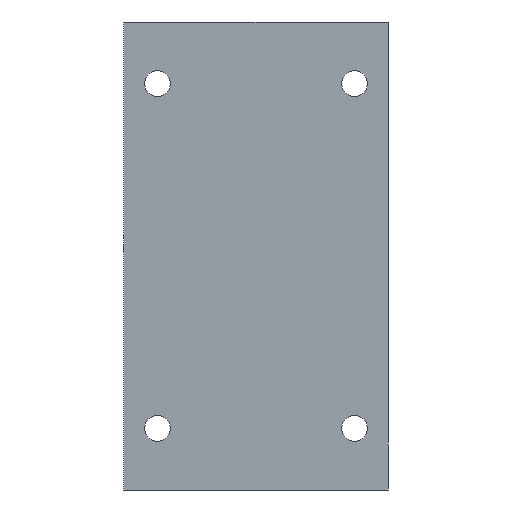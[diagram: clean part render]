
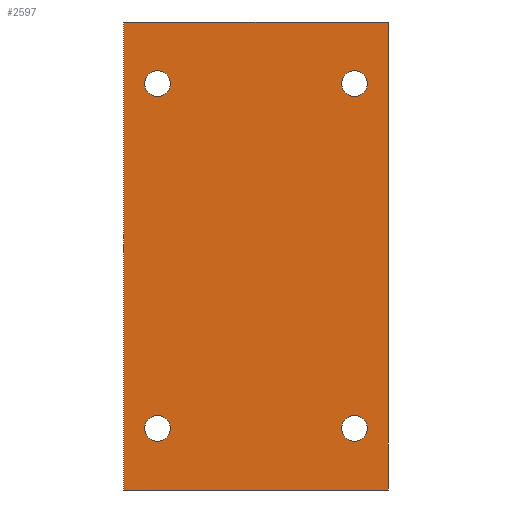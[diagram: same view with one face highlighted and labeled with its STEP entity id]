
A CAD part, front view. The second image highlights one B-rep face of the part: STEP entity #2597.
In plain terms, the highlighted planar face has unit normal (0, -1, 0).
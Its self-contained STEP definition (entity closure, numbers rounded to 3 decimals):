
#30 = DIRECTION ( 'NONE',  ( 1., 0., 0. ) ) ;
#44 = EDGE_CURVE ( 'NONE', #2842, #1373, #1187, .T. ) ;
#56 = DIRECTION ( 'NONE',  ( 0., -1., 0. ) ) ;
#59 = EDGE_CURVE ( 'NONE', #2975, #2590, #1435, .T. ) ;
#72 = VECTOR ( 'NONE', #3161, 1000. ) ;
#112 = CARTESIAN_POINT ( 'NONE',  ( 16., -17.5, 30.1 ) ) ;
#114 = FACE_BOUND ( 'NONE', #1475, .T. ) ;
#130 = DIRECTION ( 'NONE',  ( 0., 1., 0. ) ) ;
#145 = DIRECTION ( 'NONE',  ( 0., 0., -1. ) ) ;
#255 = DIRECTION ( 'NONE',  ( 0., -1., 0. ) ) ;
#277 = DIRECTION ( 'NONE',  ( 0., 0., -1. ) ) ;
#321 = VERTEX_POINT ( 'NONE', #359 ) ;
#322 = ORIENTED_EDGE ( 'NONE', *, *, #59, .F. ) ;
#324 = EDGE_CURVE ( 'NONE', #3497, #2842, #856, .T. ) ;
#327 = VERTEX_POINT ( 'NONE', #112 ) ;
#359 = CARTESIAN_POINT ( 'NONE',  ( 16., -17.5, -25.9 ) ) ;
#366 = CIRCLE ( 'NONE', #1368, 2.1 ) ;
#393 = VECTOR ( 'NONE', #586, 1000. ) ;
#440 = EDGE_CURVE ( 'NONE', #3500, #327, #366, .T. ) ;
#463 = EDGE_CURVE ( 'NONE', #3497, #2810, #3353, .T. ) ;
#503 = AXIS2_PLACEMENT_3D ( 'NONE', #3299, #56, #867 ) ;
#538 = AXIS2_PLACEMENT_3D ( 'NONE', #2406, #255, #3482 ) ;
#543 = DIRECTION ( 'NONE',  ( 0., -1., 0. ) ) ;
#586 = DIRECTION ( 'NONE',  ( 0., 0., -1. ) ) ;
#631 = ORIENTED_EDGE ( 'NONE', *, *, #3407, .F. ) ;
#642 = CARTESIAN_POINT ( 'NONE',  ( -21.5, -17.5, 38. ) ) ;
#645 = AXIS2_PLACEMENT_3D ( 'NONE', #1012, #801, #2932 ) ;
#653 = CARTESIAN_POINT ( 'NONE',  ( 16., -17.5, 28. ) ) ;
#696 = CARTESIAN_POINT ( 'NONE',  ( -16., -17.5, -28. ) ) ;
#707 = CARTESIAN_POINT ( 'NONE',  ( -21.5, -17.5, 38. ) ) ;
#748 = EDGE_LOOP ( 'NONE', ( #2264, #2576 ) ) ;
#760 = ORIENTED_EDGE ( 'NONE', *, *, #2693, .F. ) ;
#772 = EDGE_CURVE ( 'NONE', #1944, #321, #2546, .T. ) ;
#801 = DIRECTION ( 'NONE',  ( 0., -1., 0. ) ) ;
#809 = LINE ( 'NONE', #3293, #393 ) ;
#816 = EDGE_CURVE ( 'NONE', #1956, #1441, #1141, .T. ) ;
#856 = LINE ( 'NONE', #1706, #2586 ) ;
#867 = DIRECTION ( 'NONE',  ( 0., 0., -1. ) ) ;
#874 = EDGE_CURVE ( 'NONE', #1441, #1956, #2451, .T. ) ;
#1012 = CARTESIAN_POINT ( 'NONE',  ( -16., -17.5, 28. ) ) ;
#1130 = CARTESIAN_POINT ( 'NONE',  ( -21.5, -17.5, 38. ) ) ;
#1136 = CARTESIAN_POINT ( 'NONE',  ( -16., -17.5, -25.9 ) ) ;
#1141 = CIRCLE ( 'NONE', #2922, 2.1 ) ;
#1187 = LINE ( 'NONE', #2551, #2981 ) ;
#1201 = CARTESIAN_POINT ( 'NONE',  ( 16., -17.5, 28. ) ) ;
#1267 = ORIENTED_EDGE ( 'NONE', *, *, #324, .T. ) ;
#1277 = CARTESIAN_POINT ( 'NONE',  ( 21.5, -17.5, 38. ) ) ;
#1279 = CARTESIAN_POINT ( 'NONE',  ( 16., -17.5, -30.1 ) ) ;
#1367 = CARTESIAN_POINT ( 'NONE',  ( -16., -17.5, 30.1 ) ) ;
#1368 = AXIS2_PLACEMENT_3D ( 'NONE', #1201, #2004, #145 ) ;
#1373 = VERTEX_POINT ( 'NONE', #1420 ) ;
#1400 = ORIENTED_EDGE ( 'NONE', *, *, #1610, .F. ) ;
#1420 = CARTESIAN_POINT ( 'NONE',  ( 21.5, -17.5, -38. ) ) ;
#1422 = ORIENTED_EDGE ( 'NONE', *, *, #2499, .F. ) ;
#1435 = CIRCLE ( 'NONE', #3428, 2.1 ) ;
#1441 = VERTEX_POINT ( 'NONE', #1367 ) ;
#1472 = EDGE_LOOP ( 'NONE', ( #1581, #631 ) ) ;
#1475 = EDGE_LOOP ( 'NONE', ( #760, #322 ) ) ;
#1482 = DIRECTION ( 'NONE',  ( 0., -1., 0. ) ) ;
#1581 = ORIENTED_EDGE ( 'NONE', *, *, #772, .F. ) ;
#1610 = EDGE_CURVE ( 'NONE', #327, #3500, #3216, .T. ) ;
#1672 = AXIS2_PLACEMENT_3D ( 'NONE', #642, #130, #2809 ) ;
#1675 = EDGE_LOOP ( 'NONE', ( #3156, #1400 ) ) ;
#1706 = CARTESIAN_POINT ( 'NONE',  ( -21.5, -17.5, 38. ) ) ;
#1711 = PLANE ( 'NONE',  #1672 ) ;
#1764 = DIRECTION ( 'NONE',  ( 0., 0., -1. ) ) ;
#1944 = VERTEX_POINT ( 'NONE', #1279 ) ;
#1956 = VERTEX_POINT ( 'NONE', #2049 ) ;
#1991 = FACE_OUTER_BOUND ( 'NONE', #3416, .T. ) ;
#2004 = DIRECTION ( 'NONE',  ( 0., -1., 0. ) ) ;
#2028 = DIRECTION ( 'NONE',  ( 0., 0., -1. ) ) ;
#2049 = CARTESIAN_POINT ( 'NONE',  ( -16., -17.5, 25.9 ) ) ;
#2067 = ORIENTED_EDGE ( 'NONE', *, *, #463, .F. ) ;
#2098 = CARTESIAN_POINT ( 'NONE',  ( -21.5, -17.5, -38. ) ) ;
#2199 = DIRECTION ( 'NONE',  ( 0., -1., 0. ) ) ;
#2211 = DIRECTION ( 'NONE',  ( 0., 0., -1. ) ) ;
#2258 = CIRCLE ( 'NONE', #3443, 2.1 ) ;
#2262 = CARTESIAN_POINT ( 'NONE',  ( -16., -17.5, -30.1 ) ) ;
#2264 = ORIENTED_EDGE ( 'NONE', *, *, #816, .F. ) ;
#2345 = DIRECTION ( 'NONE',  ( 0., -1., 0. ) ) ;
#2396 = CARTESIAN_POINT ( 'NONE',  ( -16., -17.5, 28. ) ) ;
#2406 = CARTESIAN_POINT ( 'NONE',  ( 16., -17.5, -28. ) ) ;
#2451 = CIRCLE ( 'NONE', #645, 2.1 ) ;
#2499 = EDGE_CURVE ( 'NONE', #2810, #1373, #809, .T. ) ;
#2546 = CIRCLE ( 'NONE', #503, 2.1 ) ;
#2549 = FACE_BOUND ( 'NONE', #1675, .T. ) ;
#2551 = CARTESIAN_POINT ( 'NONE',  ( -21.5, -17.5, -38. ) ) ;
#2558 = CARTESIAN_POINT ( 'NONE',  ( 16., -17.5, 25.9 ) ) ;
#2567 = FACE_BOUND ( 'NONE', #748, .T. ) ;
#2576 = ORIENTED_EDGE ( 'NONE', *, *, #874, .F. ) ;
#2586 = VECTOR ( 'NONE', #2211, 1000. ) ;
#2590 = VERTEX_POINT ( 'NONE', #2262 ) ;
#2597 = ADVANCED_FACE ( 'NONE', ( #2549, #114, #2567, #3120, #1991 ), #1711, .F. ) ;
#2657 = AXIS2_PLACEMENT_3D ( 'NONE', #653, #2345, #1764 ) ;
#2693 = EDGE_CURVE ( 'NONE', #2590, #2975, #2258, .T. ) ;
#2755 = ORIENTED_EDGE ( 'NONE', *, *, #44, .T. ) ;
#2809 = DIRECTION ( 'NONE',  ( 0., 0., 1. ) ) ;
#2810 = VERTEX_POINT ( 'NONE', #1277 ) ;
#2842 = VERTEX_POINT ( 'NONE', #2098 ) ;
#2922 = AXIS2_PLACEMENT_3D ( 'NONE', #2396, #543, #277 ) ;
#2932 = DIRECTION ( 'NONE',  ( 0., 0., -1. ) ) ;
#2975 = VERTEX_POINT ( 'NONE', #1136 ) ;
#2981 = VECTOR ( 'NONE', #30, 1000. ) ;
#3063 = CARTESIAN_POINT ( 'NONE',  ( -16., -17.5, -28. ) ) ;
#3120 = FACE_BOUND ( 'NONE', #1472, .T. ) ;
#3156 = ORIENTED_EDGE ( 'NONE', *, *, #440, .F. ) ;
#3161 = DIRECTION ( 'NONE',  ( 1., 0., 0. ) ) ;
#3216 = CIRCLE ( 'NONE', #2657, 2.1 ) ;
#3282 = DIRECTION ( 'NONE',  ( 0., 0., -1. ) ) ;
#3293 = CARTESIAN_POINT ( 'NONE',  ( 21.5, -17.5, 38. ) ) ;
#3299 = CARTESIAN_POINT ( 'NONE',  ( 16., -17.5, -28. ) ) ;
#3353 = LINE ( 'NONE', #707, #72 ) ;
#3376 = CIRCLE ( 'NONE', #538, 2.1 ) ;
#3407 = EDGE_CURVE ( 'NONE', #321, #1944, #3376, .T. ) ;
#3416 = EDGE_LOOP ( 'NONE', ( #2755, #1422, #2067, #1267 ) ) ;
#3428 = AXIS2_PLACEMENT_3D ( 'NONE', #3063, #2199, #3282 ) ;
#3443 = AXIS2_PLACEMENT_3D ( 'NONE', #696, #1482, #2028 ) ;
#3482 = DIRECTION ( 'NONE',  ( 0., 0., -1. ) ) ;
#3497 = VERTEX_POINT ( 'NONE', #1130 ) ;
#3500 = VERTEX_POINT ( 'NONE', #2558 ) ;
